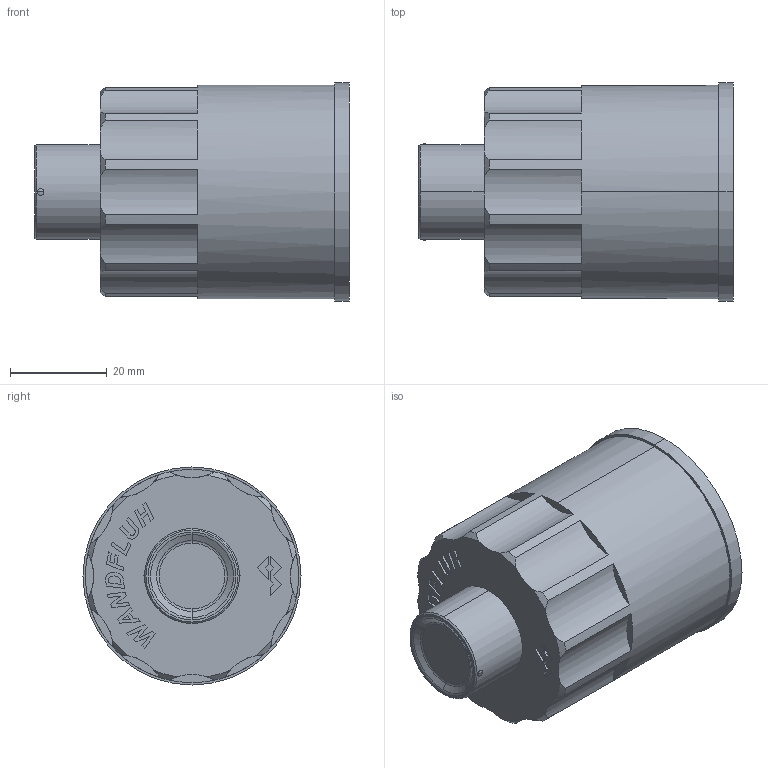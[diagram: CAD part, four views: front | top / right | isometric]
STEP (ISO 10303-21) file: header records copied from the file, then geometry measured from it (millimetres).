
FILE_DESCRIPTION (( 'STEP AP214' ), '1' );
FILE_NAME ('HF1.STEP', '2015-10-06T13:38:46', ( '' ), ( '' ), 'SwSTEP 2.0', 'SolidWorks 2014', '' );
FILE_SCHEMA (( 'AUTOMOTIVE_DESIGN' ));
Length unit declared in the file: millimetre
Products named in the file (2): HF1
Bounding box: 64.9 x 45 x 45 mm (x, y, z)
Volume: 50564 mm3; surface area: 15762.2 mm2
Topology: 2 solids, 3 shells, 221 faces, 565 edges, 369 vertices
Faces by surface type: plane 126, cylinder 33, cone 26, bspline 16, torus 12, sphere 8
Entity records: 9990 total; most frequent: CARTESIAN_POINT 2165, ORIENTED_EDGE 1126, DIRECTION 1069, EDGE_CURVE 563, VERTEX_POINT 369, AXIS2_PLACEMENT_3D 359, VECTOR 351, LINE 351
